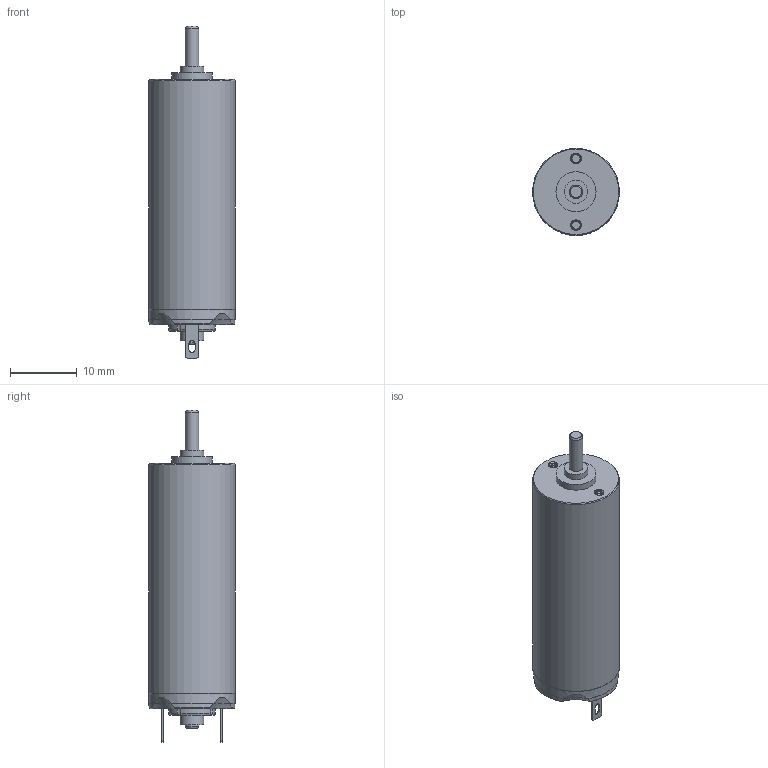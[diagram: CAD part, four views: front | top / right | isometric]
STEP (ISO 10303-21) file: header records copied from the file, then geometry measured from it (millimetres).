
FILE_DESCRIPTION(/* description */ (''),/* implementation_level */ '2;1');
FILE_NAME(/* name */ '1336_CXR..stp',/* time_stamp */ '2012-04-04T09:04:22+02:00',/* author */ ('DR. FRITZ FAULHABER GmbH & Co. KG'),/* organization */ ('DR. FRITZ FAULHABER GmbH & Co. KG'),/* preprocessor_version */ 'ST-DEVELOPER v11',/* originating_system */ 'SIEMENS PLM Software NX 7.5',/* authorisation */ '');
FILE_SCHEMA (('AUTOMOTIVE_DESIGN { 1 0 10303 214 1 1 1 1 }'));
Length unit declared in the file: millimetre
Products named in the file (1): 1336_CXR.
Bounding box: 13 x 13 x 49.7 mm (x, y, z)
Volume: 4964.4 mm3; surface area: 2000.8 mm2
Topology: 1 solids, 1 shells, 103 faces, 251 edges, 164 vertices
Faces by surface type: plane 42, cylinder 36, cone 19, bspline 6
Full cylindrical faces by diameter (mm): 1 x2, 2 x2, 3.5 x2, 6 x1, 10.4 x1, 12.9 x1, 13 x1
Entity records: 5376 total; most frequent: CARTESIAN_POINT 3038, DIRECTION 472, ORIENTED_EDGE 458, EDGE_CURVE 229, AXIS2_PLACEMENT_3D 191, VERTEX_POINT 159, EDGE_LOOP 138, ADVANCED_FACE 103
